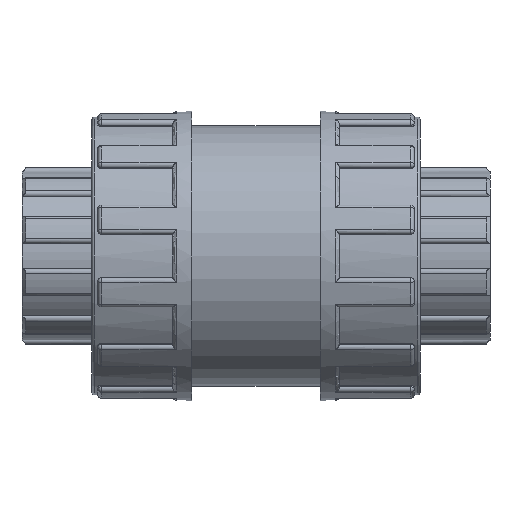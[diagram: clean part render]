
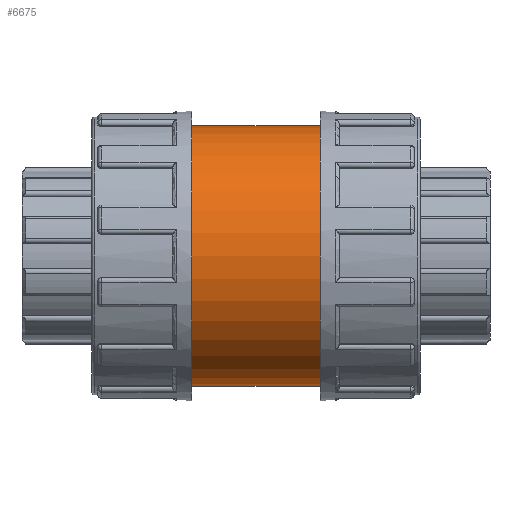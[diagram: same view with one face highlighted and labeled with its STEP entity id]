
A CAD part, front view. The second image highlights one B-rep face of the part: STEP entity #6675.
In plain terms, the highlighted cylindrical face has radius 24.75 mm (diameter 49.5 mm), a full revolution.
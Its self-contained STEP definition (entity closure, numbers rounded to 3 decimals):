
#185=FACE_BOUND('',#1099,.T.);
#186=FACE_BOUND('',#1100,.T.);
#670=FACE_OUTER_BOUND('',#1098,.T.);
#1098=EDGE_LOOP('',(#6073));
#1099=EDGE_LOOP('',(#6074));
#1100=EDGE_LOOP('',(#6075));
#1149=B_SPLINE_CURVE_WITH_KNOTS('',3,(#10735,#10736,#10737,#10738,#10739,
#10740,#10741,#10742,#10743,#10744,#10745,#10746,#10747,#10748,#10749,#10750,
#10751,#10752,#10753,#10754,#10755,#10756,#10757,#10758,#10759,#10760,#10761,
#10762,#10763,#10764,#10765,#10766,#10767,#10768),.UNSPECIFIED.,.T.,.F.,
(4,2,2,2,2,2,2,2,2,2,2,2,2,2,2,2,4),(0.,0.313,0.627,
0.94,1.254,1.567,1.88,2.194,
2.507,2.82,3.134,3.447,3.761,
4.074,4.387,4.701,5.014),
 .UNSPECIFIED.);
#2472=CIRCLE('',#7578,24.75);
#2473=CIRCLE('',#7580,24.75);
#2638=VERTEX_POINT('',#10734);
#3083=VERTEX_POINT('',#13353);
#3084=VERTEX_POINT('',#13356);
#3349=EDGE_CURVE('',#2638,#2638,#1149,.T.);
#4082=EDGE_CURVE('',#3083,#3083,#2472,.T.);
#4083=EDGE_CURVE('',#3084,#3084,#2473,.T.);
#6073=ORIENTED_EDGE('',*,*,#4082,.T.);
#6074=ORIENTED_EDGE('',*,*,#3349,.T.);
#6075=ORIENTED_EDGE('',*,*,#4083,.F.);
#6267=CYLINDRICAL_SURFACE('',#7579,24.75);
#6675=ADVANCED_FACE('',(#670,#185,#186),#6267,.T.);
#7578=AXIS2_PLACEMENT_3D('',#13354,#9749,#9750);
#7579=AXIS2_PLACEMENT_3D('',#13355,#9751,#9752);
#7580=AXIS2_PLACEMENT_3D('',#13357,#9753,#9754);
#9749=DIRECTION('center_axis',(1.,0.,0.));
#9750=DIRECTION('ref_axis',(0.,0.,-1.));
#9751=DIRECTION('center_axis',(1.,0.,0.));
#9752=DIRECTION('ref_axis',(0.,1.,0.));
#9753=DIRECTION('center_axis',(1.,0.,0.));
#9754=DIRECTION('ref_axis',(0.,0.,-1.));
#10734=CARTESIAN_POINT('',(0.,23.335,-8.25));
#10735=CARTESIAN_POINT('Ctrl Pts',(0.,23.335,-8.25));
#10736=CARTESIAN_POINT('Ctrl Pts',(1.045,23.335,-8.25));
#10737=CARTESIAN_POINT('Ctrl Pts',(2.153,23.412,-8.04));
#10738=CARTESIAN_POINT('Ctrl Pts',(4.183,23.685,-7.195));
#10739=CARTESIAN_POINT('Ctrl Pts',(5.105,23.876,-6.562));
#10740=CARTESIAN_POINT('Ctrl Pts',(6.561,24.229,-5.106));
#10741=CARTESIAN_POINT('Ctrl Pts',(7.195,24.415,-4.183));
#10742=CARTESIAN_POINT('Ctrl Pts',(8.04,24.677,-2.153));
#10743=CARTESIAN_POINT('Ctrl Pts',(8.25,24.75,-1.044));
#10744=CARTESIAN_POINT('Ctrl Pts',(8.25,24.75,1.044));
#10745=CARTESIAN_POINT('Ctrl Pts',(8.04,24.677,2.153));
#10746=CARTESIAN_POINT('Ctrl Pts',(7.195,24.415,4.183));
#10747=CARTESIAN_POINT('Ctrl Pts',(6.561,24.229,5.106));
#10748=CARTESIAN_POINT('Ctrl Pts',(5.105,23.876,6.562));
#10749=CARTESIAN_POINT('Ctrl Pts',(4.183,23.685,7.195));
#10750=CARTESIAN_POINT('Ctrl Pts',(2.153,23.412,8.04));
#10751=CARTESIAN_POINT('Ctrl Pts',(1.045,23.335,8.25));
#10752=CARTESIAN_POINT('Ctrl Pts',(-1.045,23.335,8.25));
#10753=CARTESIAN_POINT('Ctrl Pts',(-2.153,23.412,8.04));
#10754=CARTESIAN_POINT('Ctrl Pts',(-4.183,23.685,7.195));
#10755=CARTESIAN_POINT('Ctrl Pts',(-5.105,23.876,6.562));
#10756=CARTESIAN_POINT('Ctrl Pts',(-6.561,24.229,5.106));
#10757=CARTESIAN_POINT('Ctrl Pts',(-7.195,24.415,4.183));
#10758=CARTESIAN_POINT('Ctrl Pts',(-8.04,24.677,2.153));
#10759=CARTESIAN_POINT('Ctrl Pts',(-8.25,24.75,1.044));
#10760=CARTESIAN_POINT('Ctrl Pts',(-8.25,24.75,-1.044));
#10761=CARTESIAN_POINT('Ctrl Pts',(-8.04,24.677,-2.153));
#10762=CARTESIAN_POINT('Ctrl Pts',(-7.195,24.415,-4.183));
#10763=CARTESIAN_POINT('Ctrl Pts',(-6.561,24.229,-5.106));
#10764=CARTESIAN_POINT('Ctrl Pts',(-5.105,23.876,-6.562));
#10765=CARTESIAN_POINT('Ctrl Pts',(-4.183,23.685,-7.195));
#10766=CARTESIAN_POINT('Ctrl Pts',(-2.153,23.412,-8.04));
#10767=CARTESIAN_POINT('Ctrl Pts',(-1.045,23.335,-8.25));
#10768=CARTESIAN_POINT('Ctrl Pts',(0.,23.335,
-8.25));
#13353=CARTESIAN_POINT('',(-12.2,24.75,0.));
#13354=CARTESIAN_POINT('Origin',(-12.2,0.,0.));
#13355=CARTESIAN_POINT('Origin',(0.,0.,0.));
#13356=CARTESIAN_POINT('',(12.2,24.75,0.));
#13357=CARTESIAN_POINT('Origin',(12.2,0.,0.));
